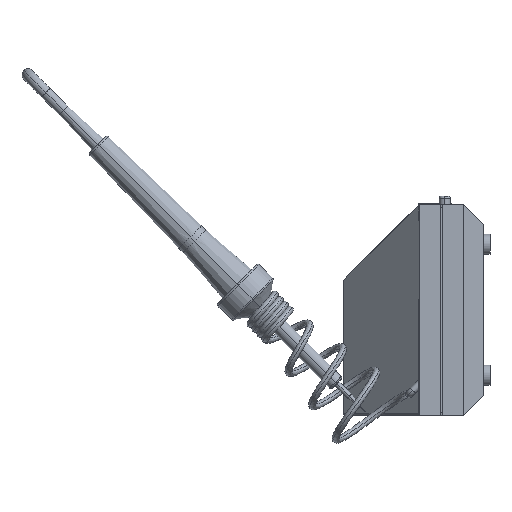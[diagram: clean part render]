
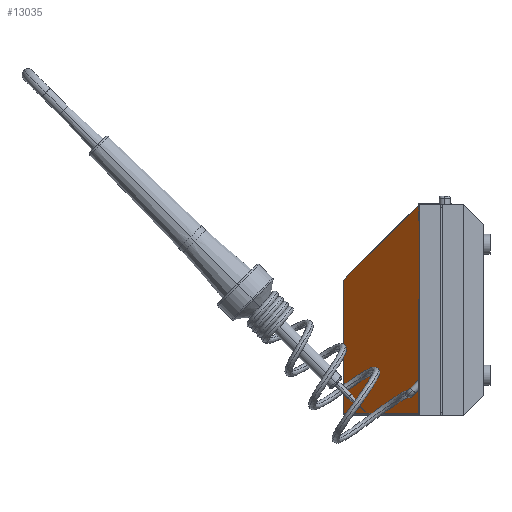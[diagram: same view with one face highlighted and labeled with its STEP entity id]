
A CAD part, left-side view. The second image highlights one B-rep face of the part: STEP entity #13035.
In plain terms, the highlighted planar face has unit normal (-0.707, 0.707, 0).
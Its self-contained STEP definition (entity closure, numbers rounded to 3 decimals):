
#360 = CARTESIAN_POINT ( 'NONE',  ( -32.5, 16., -104. ) ) ;
#390 = DIRECTION ( 'NONE',  ( -0.577, -0.577, 0.577 ) ) ;
#1163 = VERTEX_POINT ( 'NONE', #21737 ) ;
#3105 = ORIENTED_EDGE ( 'NONE', *, *, #45276, .T. ) ;
#4673 = ORIENTED_EDGE ( 'NONE', *, *, #33291, .T. ) ;
#5976 = CARTESIAN_POINT ( 'NONE',  ( 5.207, 53.707, -104. ) ) ;
#6540 = EDGE_CURVE ( 'NONE', #1163, #32940, #34766, .T. ) ;
#7311 = DIRECTION ( 'NONE',  ( -0.707, -0.707, 0. ) ) ;
#10413 = FACE_OUTER_BOUND ( 'NONE', #46299, .T. ) ;
#11488 = LINE ( 'NONE', #45708, #42628 ) ;
#12609 = VECTOR ( 'NONE', #390, 1000. ) ;
#13035 = ADVANCED_FACE ( 'NONE', ( #10413 ), #36607, .T. ) ;
#17483 = DIRECTION ( 'NONE',  ( -0.707, 0.707, 0. ) ) ;
#17746 = CARTESIAN_POINT ( 'NONE',  ( -24.25, 24.25, -105. ) ) ;
#18854 = CARTESIAN_POINT ( 'NONE',  ( -32.5, 16., 0. ) ) ;
#18897 = LINE ( 'NONE', #360, #28377 ) ;
#21737 = CARTESIAN_POINT ( 'NONE',  ( 5.207, 53.707, -37.707 ) ) ;
#28377 = VECTOR ( 'NONE', #7311, 1000. ) ;
#29905 = AXIS2_PLACEMENT_3D ( 'NONE', #17746, #17483, #40626 ) ;
#32940 = VERTEX_POINT ( 'NONE', #18854 ) ;
#33146 = VECTOR ( 'NONE', #40914, 1000. ) ;
#33291 = EDGE_CURVE ( 'NONE', #44985, #32940, #11488, .T. ) ;
#34039 = VERTEX_POINT ( 'NONE', #5976 ) ;
#34766 = LINE ( 'NONE', #49564, #12609 ) ;
#36607 = PLANE ( 'NONE',  #29905 ) ;
#39558 = CARTESIAN_POINT ( 'NONE',  ( -32.5, 16., -104. ) ) ;
#40626 = DIRECTION ( 'NONE',  ( -0.707, -0.707, 0. ) ) ;
#40914 = DIRECTION ( 'NONE',  ( 0., 0., -1. ) ) ;
#42439 = DIRECTION ( 'NONE',  ( 0., 0., 1. ) ) ;
#42628 = VECTOR ( 'NONE', #42439, 1000. ) ;
#42968 = ORIENTED_EDGE ( 'NONE', *, *, #44758, .T. ) ;
#44670 = CARTESIAN_POINT ( 'NONE',  ( 5.207, 53.707, -105. ) ) ;
#44758 = EDGE_CURVE ( 'NONE', #1163, #34039, #48410, .T. ) ;
#44985 = VERTEX_POINT ( 'NONE', #39558 ) ;
#45276 = EDGE_CURVE ( 'NONE', #34039, #44985, #18897, .T. ) ;
#45708 = CARTESIAN_POINT ( 'NONE',  ( -32.5, 16., -105. ) ) ;
#46299 = EDGE_LOOP ( 'NONE', ( #42968, #3105, #4673, #47454 ) ) ;
#47454 = ORIENTED_EDGE ( 'NONE', *, *, #6540, .F. ) ;
#48410 = LINE ( 'NONE', #44670, #33146 ) ;
#49564 = CARTESIAN_POINT ( 'NONE',  ( 8., 56.5, -40.5 ) ) ;
